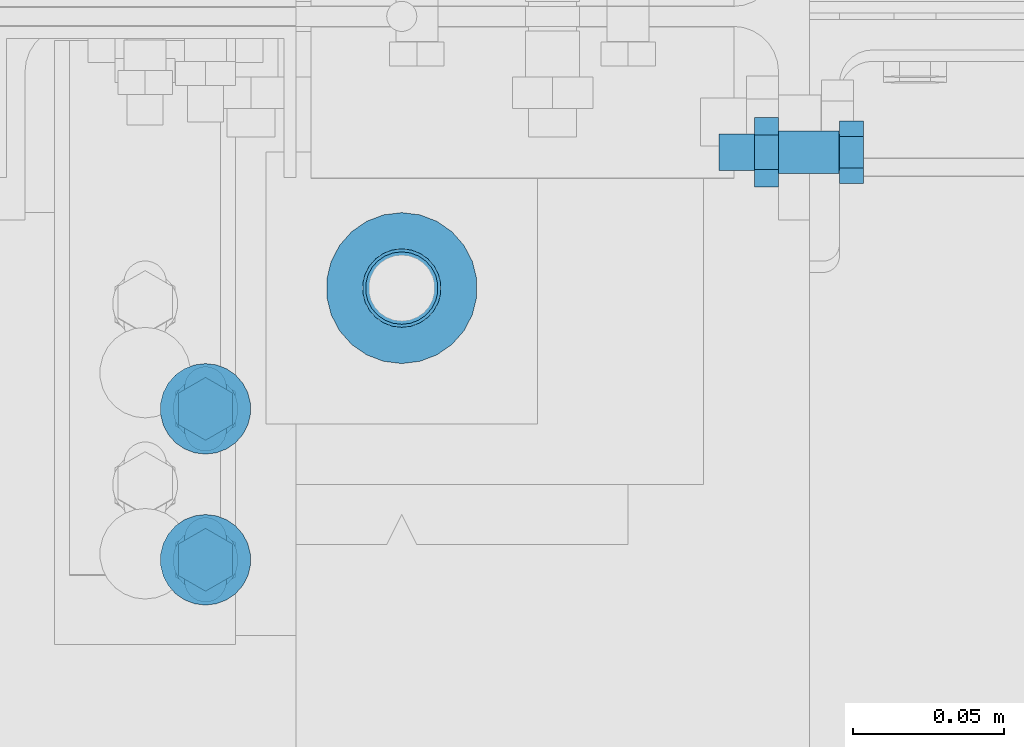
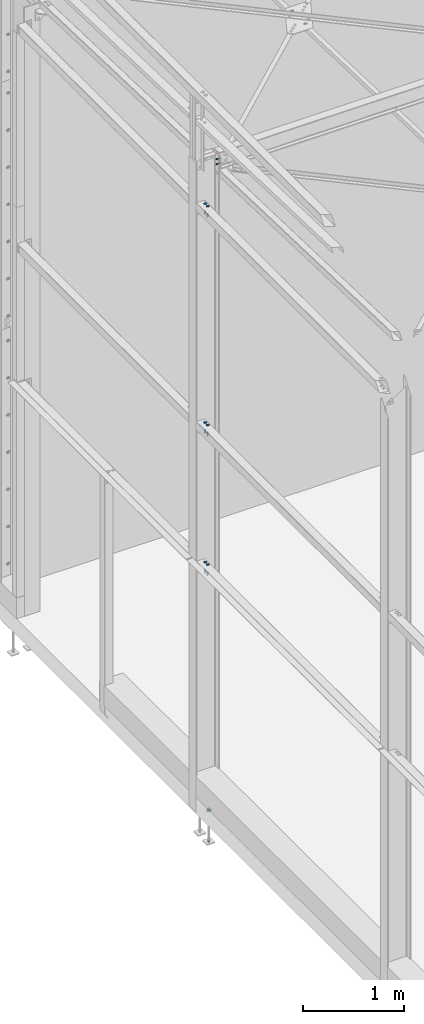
# One storey, part 235 of 362: 11 mechanical fasteners.
"""IFC2X3 building model written with IfcOpenShell, lengths in millimetres."""

from ifc_helpers import new_model, si_unit, frame, frame_2d, origin_with_axes, origin_2d_with_axis, place, context, subcontext, project, spatial, polyline, circle_curve, parameter, trimmed, segment, composite_curve, circle, outline, extrude, source, transform, mapped, material, type_object, element, save


model = new_model("IFC2X3")

# Units and contexts
model_context = context("Model", 3, precision=1e-05, world=origin_with_axes())
body_context = subcontext(model_context, "Body", "Model", "MODEL_VIEW")
ifc_project = project(units=[si_unit("LENGTHUNIT", "METRE", prefix="MILLI"), si_unit("AREAUNIT", "SQUARE_METRE"), si_unit("VOLUMEUNIT", "CUBIC_METRE"), si_unit("MASSUNIT", "GRAM", prefix="KILO"), si_unit("TIMEUNIT", "SECOND"), si_unit("PLANEANGLEUNIT", "RADIAN"), si_unit("SOLIDANGLEUNIT", "STERADIAN"), si_unit("THERMODYNAMICTEMPERATUREUNIT", "DEGREE_CELSIUS"), si_unit("LUMINOUSINTENSITYUNIT", "LUMEN")], contexts=[model_context])

# Site, building, storey
site_placement = place(None, origin_with_axes())
site = spatial("IfcSite", under=ifc_project, at=site_placement, Name="Undefined", CompositionType="ELEMENT")
building_placement = place(site_placement, origin_with_axes())
building = spatial("IfcBuilding", under=site, at=building_placement, Name="Undefined", CompositionType="ELEMENT")
storey_placement = place(building_placement, origin_with_axes())
storey = spatial("IfcBuildingStorey", under=building, at=storey_placement, Name="Undefined", CompositionType="ELEMENT", Elevation=0.0)

# Mechanical fasteners
ifc_material_1 = material(Name="6.8")
mechanical_fastener_type = type_object("IfcMechanicalFastenerType", Name="Bolt assembly")
shared_shape_1 = source(origin_with_axes(), body_context, "Body", "SweptSolid", [
    extrude(circle(Radius=15.0, at=origin_2d_with_axis()), frame((0.0, 0.0, 0.0), z_axis=(0.0, 1.0, 0.0), x_axis=(1.0, 0.0, 0.0)), (0.0, 0.0, 1.0), 4.1),
])
for number, where, z_axis, x_axis, name in (
    (1, (-110.000004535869, 11220.0000009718, 2859.9999839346), (-1.0, 0.0, 0.0), (0.0, 1.0, 0.0), "Bolt assembly"),
    (2, (-110.000004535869, 11220.0000009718, 4549.99998404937), (-1.0, 0.0, 0.0), (0.0, 1.0, 0.0), "Bolt assembly"),
    (3, (-110.000004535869, 11220.0000009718, 7200.0), (-1.0, 0.0, 0.0), (0.0, 1.0, 0.0), "Bolt assembly"),
):
    element("IfcMechanicalFastener", number, at=place(storey_placement, frame(where, z_axis=z_axis, x_axis=x_axis)), inside=storey, type_object=mechanical_fastener_type, material=ifc_material_1, Name=name, NominalDiameter=30.0, NominalLength=4.0, context=body_context, shape_type="MappedRepresentation", body=[
        mapped(shared_shape_1, transform((0.0, 0.0, 0.0))),
        mapped(shared_shape_1, transform((49.9999999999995, 0.0, -3.63797880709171e-12))),
    ])
ifc_material_2 = material(Name="8.8-SB-ZINGUE")
shared_shape_2 = source(origin_with_axes(), body_context, "Body", "SweptSolid", [
    extrude(circle(Radius=7.0, at=origin_2d_with_axis()), frame((0.0, -3.89999843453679, 0.0), z_axis=(0.0, 1.0, 0.0), x_axis=(1.0, 0.0, 0.0)), (0.0, 0.0, 1.0), 4.0),
    extrude(outline(composite_curve([segment(polyline([(-7.0, 7.0), (7.0, 7.0)]), True, "CONTINUOUS"), segment(trimmed(circle_curve(frame_2d((7.0, 0.0), x_axis=(0.0, 1.0)), 7.0), [parameter(0.0)], [parameter(3.14159265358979)], False, "PARAMETER"), True, "CONTINUOUS"), segment(polyline([(7.0, -7.0), (-7.0, -7.0)]), True, "CONTINUOUS"), segment(trimmed(circle_curve(frame_2d((-7.0, 0.0), x_axis=(0.0, -1.0)), 7.0), [parameter(0.0)], [parameter(3.14159265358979)], False, "PARAMETER"), True, "DISCONTINUOUS")], self_intersect=False)), frame((0.0, -0.100011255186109, 0.0), z_axis=(0.0, 1.0, 0.0), x_axis=(1.0, 0.0, 0.0)), (0.0, 0.0, 1.0), 10.1),
    extrude(outline(polyline([(10.39230484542, 0.0), (5.19615242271, 9.00000000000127), (-5.19615242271, 9.00000000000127), (-10.39230484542, 0.0), (-5.19615242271, -9.00000000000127), (5.19615242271, -9.00000000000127), (10.39230484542, 0.0)])), frame((0.0, -11.9199984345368, 0.0), z_axis=(0.0, 1.0, 0.0), x_axis=(1.0, 0.0, 0.0)), (0.0, 0.0, 1.0), 7.92),
    extrude(circle(Radius=6.0, at=origin_2d_with_axis()), frame((0.0, -3.99999923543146, 0.0), z_axis=(0.0, 1.0, 0.0), x_axis=(1.0, 0.0, 0.0)), (0.0, 0.0, 1.0), 40.0),
    extrude(circle(Radius=10.8, at=origin_2d_with_axis()), frame((0.0, 10.0000000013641, 0.0), z_axis=(0.0, 1.0, 0.0), x_axis=(1.0, 0.0, 0.0)), (0.0, 0.0, 1.0), 3.96),
    extrude(outline(polyline([(11.5008173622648, 0.0), (5.7504086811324, 9.96000000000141), (-5.7504086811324, 9.96000000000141), (-11.5008173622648, 0.0), (-5.7504086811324, -9.96000000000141), (5.7504086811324, -9.96000000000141), (11.5008173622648, 0.0)])), frame((0.0, 13.96, 0.0), z_axis=(0.0, 1.0, 0.0), x_axis=(1.0, 0.0, 0.0)), (0.0, 0.0, 1.0), 7.92),
])
mechanical_fastener_1_placement = place(storey_placement, frame((-110.000004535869, 11220.0000009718, 2759.9999839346), z_axis=(-1.0, 0.0, 0.0), x_axis=(0.0, 1.0, 0.0)))
element("IfcMechanicalFastener", 4, at=mechanical_fastener_1_placement, inside=storey, type_object=mechanical_fastener_type, material=ifc_material_2, Name="Bolt assembly", NominalDiameter=12.0, NominalLength=40.0, context=body_context, shape_type="MappedRepresentation", body=[
    mapped(shared_shape_2, transform((0.0, 0.0, 0.0))),
    mapped(shared_shape_2, transform((49.9999999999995, 0.0, -3.63797880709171e-12))),
])
shared_shape_3 = source(origin_with_axes(), body_context, "Body", "SweptSolid", [
    extrude(circle(Radius=7.0, at=origin_2d_with_axis()), frame((0.0, -3.89999843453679, 0.0), z_axis=(0.0, 1.0, 0.0), x_axis=(1.0, 0.0, 0.0)), (0.0, 0.0, 1.0), 4.0),
    extrude(outline(composite_curve([segment(polyline([(-7.0, 7.0), (7.0, 7.0)]), True, "CONTINUOUS"), segment(trimmed(circle_curve(frame_2d((7.0, 0.0), x_axis=(0.0, 1.0)), 7.0), [parameter(0.0)], [parameter(3.14159265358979)], False, "PARAMETER"), True, "CONTINUOUS"), segment(polyline([(7.0, -7.0), (-7.0, -7.0)]), True, "CONTINUOUS"), segment(trimmed(circle_curve(frame_2d((-7.0, 0.0), x_axis=(0.0, -1.0)), 7.0), [parameter(0.0)], [parameter(3.14159265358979)], False, "PARAMETER"), True, "DISCONTINUOUS")], self_intersect=False)), frame((0.0, -0.100011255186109, 0.0), z_axis=(0.0, 1.0, 0.0), x_axis=(1.0, 0.0, 0.0)), (0.0, 0.0, 1.0), 10.1),
    extrude(outline(polyline([(10.39230484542, 0.0), (5.19615242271, 9.00000000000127), (-5.19615242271, 9.00000000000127), (-10.39230484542, 0.0), (-5.19615242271, -9.00000000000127), (5.19615242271, -9.00000000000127), (10.39230484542, 0.0)])), frame((0.0, -11.9199984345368, 0.0), z_axis=(0.0, 1.0, 0.0), x_axis=(1.0, 0.0, 0.0)), (0.0, 0.0, 1.0), 7.92),
    extrude(circle(Radius=6.0, at=origin_2d_with_axis()), frame((0.0, -3.99999923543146, 0.0), z_axis=(0.0, 1.0, 0.0), x_axis=(1.0, 0.0, 0.0)), (0.0, 0.0, 1.0), 40.0),
    extrude(circle(Radius=10.8, at=origin_2d_with_axis()), frame((0.0, 10.0000000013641, 0.0), z_axis=(0.0, 1.0, 0.0), x_axis=(1.0, 0.0, 0.0)), (0.0, 0.0, 1.0), 3.96),
    extrude(outline(polyline([(11.5008173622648, 0.0), (5.7504086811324, 9.96000000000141), (-5.7504086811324, 9.96000000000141), (-11.5008173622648, 0.0), (-5.7504086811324, -9.96000000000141), (5.7504086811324, -9.96000000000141), (11.5008173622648, 0.0)])), frame((0.0, 13.96, 0.0), z_axis=(0.0, 1.0, 0.0), x_axis=(1.0, 0.0, 0.0)), (0.0, 0.0, 1.0), 7.92),
])
mechanical_fastener_2_placement = place(storey_placement, frame((-110.000004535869, 11220.0000009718, 4449.99998404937), z_axis=(-1.0, 0.0, 0.0), x_axis=(0.0, 1.0, 0.0)))
element("IfcMechanicalFastener", 5, at=mechanical_fastener_2_placement, inside=storey, type_object=mechanical_fastener_type, material=ifc_material_2, Name="Bolt assembly", NominalDiameter=12.0, NominalLength=40.0, context=body_context, shape_type="MappedRepresentation", body=[
    mapped(shared_shape_3, transform((0.0, 0.0, 0.0))),
    mapped(shared_shape_3, transform((49.9999999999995, 0.0, -3.63797880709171e-12))),
])
shared_shape_4 = source(origin_with_axes(), body_context, "Body", "SweptSolid", [
    extrude(circle(Radius=7.0, at=origin_2d_with_axis()), frame((0.0, -3.89999843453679, 0.0), z_axis=(0.0, 1.0, 0.0), x_axis=(1.0, 0.0, 0.0)), (0.0, 0.0, 1.0), 4.0),
    extrude(outline(composite_curve([segment(polyline([(-7.0, 7.0), (7.0, 7.0)]), True, "CONTINUOUS"), segment(trimmed(circle_curve(frame_2d((7.0, 0.0), x_axis=(0.0, 1.0)), 7.0), [parameter(0.0)], [parameter(3.14159265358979)], False, "PARAMETER"), True, "CONTINUOUS"), segment(polyline([(7.0, -7.0), (-7.0, -7.0)]), True, "CONTINUOUS"), segment(trimmed(circle_curve(frame_2d((-7.0, 0.0), x_axis=(0.0, -1.0)), 7.0), [parameter(0.0)], [parameter(3.14159265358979)], False, "PARAMETER"), True, "DISCONTINUOUS")], self_intersect=False)), frame((0.0, -0.100011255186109, 0.0), z_axis=(0.0, 1.0, 0.0), x_axis=(1.0, 0.0, 0.0)), (0.0, 0.0, 1.0), 10.1),
    extrude(outline(polyline([(10.39230484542, 0.0), (5.19615242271, 9.00000000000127), (-5.19615242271, 9.00000000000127), (-10.39230484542, 0.0), (-5.19615242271, -9.00000000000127), (5.19615242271, -9.00000000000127), (10.39230484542, 0.0)])), frame((0.0, -11.9199984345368, 0.0), z_axis=(0.0, 1.0, 0.0), x_axis=(1.0, 0.0, 0.0)), (0.0, 0.0, 1.0), 7.92),
    extrude(circle(Radius=6.0, at=origin_2d_with_axis()), frame((0.0, -3.99999923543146, 0.0), z_axis=(0.0, 1.0, 0.0), x_axis=(1.0, 0.0, 0.0)), (0.0, 0.0, 1.0), 40.0),
    extrude(circle(Radius=10.8, at=origin_2d_with_axis()), frame((0.0, 10.0000000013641, 0.0), z_axis=(0.0, 1.0, 0.0), x_axis=(1.0, 0.0, 0.0)), (0.0, 0.0, 1.0), 3.96),
    extrude(outline(polyline([(11.5008173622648, 0.0), (5.7504086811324, 9.96000000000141), (-5.7504086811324, 9.96000000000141), (-11.5008173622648, 0.0), (-5.7504086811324, -9.96000000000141), (5.7504086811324, -9.96000000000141), (11.5008173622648, 0.0)])), frame((0.0, 13.96, 0.0), z_axis=(0.0, 1.0, 0.0), x_axis=(1.0, 0.0, 0.0)), (0.0, 0.0, 1.0), 7.92),
])
mechanical_fastener_3_placement = place(storey_placement, frame((-110.000004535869, 11220.0000009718, 7100.0), z_axis=(-1.0, 0.0, 0.0), x_axis=(0.0, 1.0, 0.0)))
element("IfcMechanicalFastener", 6, at=mechanical_fastener_3_placement, inside=storey, type_object=mechanical_fastener_type, material=ifc_material_2, Name="Bolt assembly", NominalDiameter=12.0, NominalLength=40.0, context=body_context, shape_type="MappedRepresentation", body=[
    mapped(shared_shape_4, transform((0.0, 0.0, 0.0))),
    mapped(shared_shape_4, transform((49.9999999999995, 0.0, -3.63797880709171e-12))),
])
shared_shape_5 = source(origin_with_axes(), body_context, "Body", "SweptSolid", [
    extrude(circle(Radius=7.0, at=origin_2d_with_axis()), frame((0.0, -0.100011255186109, 0.0), z_axis=(0.0, 1.0, 0.0), x_axis=(1.0, 0.0, 0.0)), (0.0, 0.0, 1.0), 10.3),
    extrude(circle(Radius=7.0, at=origin_2d_with_axis()), frame((0.0, -9.9, 0.0), z_axis=(0.0, 1.0, 0.0), x_axis=(1.0, 0.0, 0.0)), (0.0, 0.0, 1.0), 10.0),
    extrude(outline(polyline([(10.39230484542, 0.0), (5.19615242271, 9.00000000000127), (-5.19615242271, 9.00000000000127), (-10.39230484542, 0.0), (-5.19615242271, -9.00000000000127), (5.19615242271, -9.00000000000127), (10.39230484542, 0.0)])), frame((0.0, -17.92, 0.0), z_axis=(0.0, 1.0, 0.0), x_axis=(1.0, 0.0, 0.0)), (0.0, 0.0, 1.0), 7.92),
    extrude(circle(Radius=6.0, at=origin_2d_with_axis()), frame((0.0, -10.0000010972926, 0.0), z_axis=(0.0, 1.0, 0.0), x_axis=(1.0, 0.0, 0.0)), (0.0, 0.0, 1.0), 40.0),
    extrude(outline(polyline([(11.5008173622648, 0.0), (5.7504086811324, 9.96000000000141), (-5.7504086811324, 9.96000000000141), (-11.5008173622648, 0.0), (-5.7504086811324, -9.96000000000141), (5.7504086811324, -9.96000000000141), (11.5008173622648, 0.0)])), frame((0.0, 10.1999997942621, 0.0), z_axis=(0.0, 1.0, 0.0), x_axis=(1.0, 0.0, 0.0)), (0.0, 0.0, 1.0), 7.92),
])
for number, where, z_axis, x_axis, name in (
    (7, (89.9999986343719, 11355.0005139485, 7563.08703281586), (0.0, 0.0, -1.0), (0.0, -1.0, 0.0), "Bolt assembly"),
    (8, (89.9999986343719, 11355.0005139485, 7623.11665467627), (0.0, 0.0, -1.0), (0.0, -1.0, 0.0), "Bolt assembly"),
):
    element("IfcMechanicalFastener", number, at=place(storey_placement, frame(where, z_axis=z_axis, x_axis=x_axis)), inside=storey, type_object=mechanical_fastener_type, material=ifc_material_2, Name=name, NominalDiameter=12.0, NominalLength=40.0, context=body_context, shape_type="MappedRepresentation", body=[
        mapped(shared_shape_5, transform((0.0, 0.0, 0.0))),
    ])
shared_shape_6 = source(origin_with_axes(), body_context, "Body", "SweptSolid", [
    extrude(circle(Radius=25.0, at=origin_2d_with_axis()), frame((0.0, -14.999999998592, 0.0), z_axis=(0.0, 1.0, 0.0), x_axis=(1.0, 0.0, 0.0)), (0.0, 0.0, 1.0), 15.1),
])
mechanical_fastener_4_placement = place(storey_placement, frame((-45.0, 11310.0, -200.0), z_axis=(-1.0, 0.0, 0.0), x_axis=(0.0, 1.0, 0.0)))
element("IfcMechanicalFastener", 9, at=mechanical_fastener_4_placement, inside=storey, type_object=mechanical_fastener_type, material=ifc_material_1, Name="Bolt assembly", NominalDiameter=30.0, NominalLength=15.0, context=body_context, shape_type="MappedRepresentation", body=[
    mapped(shared_shape_6, transform((0.0, 0.0, 0.0))),
])
shared_shape_7 = source(origin_with_axes(), body_context, "Body", "SweptSolid", [
    extrude(circle(Radius=13.0, at=origin_2d_with_axis()), frame((0.0, -14.999999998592, 0.0), z_axis=(0.0, 1.0, 0.0), x_axis=(1.0, 0.0, 0.0)), (0.0, 0.0, 1.0), 15.1),
])
mechanical_fastener_5_placement = place(storey_placement, frame((-45.0, 11309.9971504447, -185.0), z_axis=(1.0, 0.0, 0.0), x_axis=(0.0, -1.0, 0.0)))
element("IfcMechanicalFastener", 10, at=mechanical_fastener_5_placement, inside=storey, type_object=mechanical_fastener_type, material=ifc_material_1, Name="Bolt assembly", NominalDiameter=24.0, NominalLength=15.0, context=body_context, shape_type="MappedRepresentation", body=[
    mapped(shared_shape_7, transform((0.0, 0.0, 0.0))),
])
shared_shape_8 = source(origin_with_axes(), body_context, "Body", "SweptSolid", [
    extrude(circle(Radius=12.0, at=origin_2d_with_axis()), frame((0.0, -14.999999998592, 0.0), z_axis=(0.0, 1.0, 0.0), x_axis=(1.0, 0.0, 0.0)), (0.0, 0.0, 1.0), 15.1),
])
mechanical_fastener_6_placement = place(storey_placement, frame((-45.0, 11309.9971504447, -580.0), z_axis=(1.0, 0.0, 0.0), x_axis=(0.0, -1.0, 0.0)))
element("IfcMechanicalFastener", 11, at=mechanical_fastener_6_placement, inside=storey, type_object=mechanical_fastener_type, material=ifc_material_1, Name="Bolt assembly", NominalDiameter=22.0, NominalLength=15.0, context=body_context, shape_type="MappedRepresentation", body=[
    mapped(shared_shape_8, transform((0.0, 0.0, 0.0))),
])

save(model, "model.ifc")
